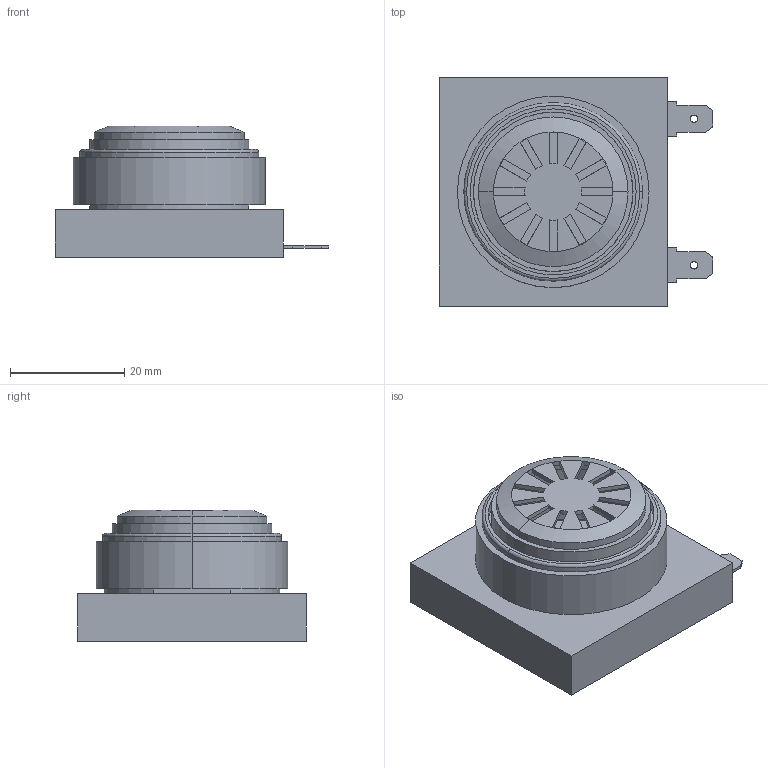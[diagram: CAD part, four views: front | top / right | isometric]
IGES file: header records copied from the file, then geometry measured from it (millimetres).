
Global section: file name: No Iges File Name specified; native system: Autodesk Inventor 2011; preprocessor: AutoDesk Inventor Iges Exporter R2011; author: Dunn; date: 20120112.091058; units: millimetre
Bounding box: 48 x 40 x 23.11 mm (x, y, z)
Volume: 6999.9 mm3; surface area: 15390.6 mm2
Topology: 4 solids, 4 shells, 199 faces, 550 edges, 358 vertices
Faces by surface type: plane 131, cylinder 36, revolution 20, torus 6, bspline 4, cone 2
